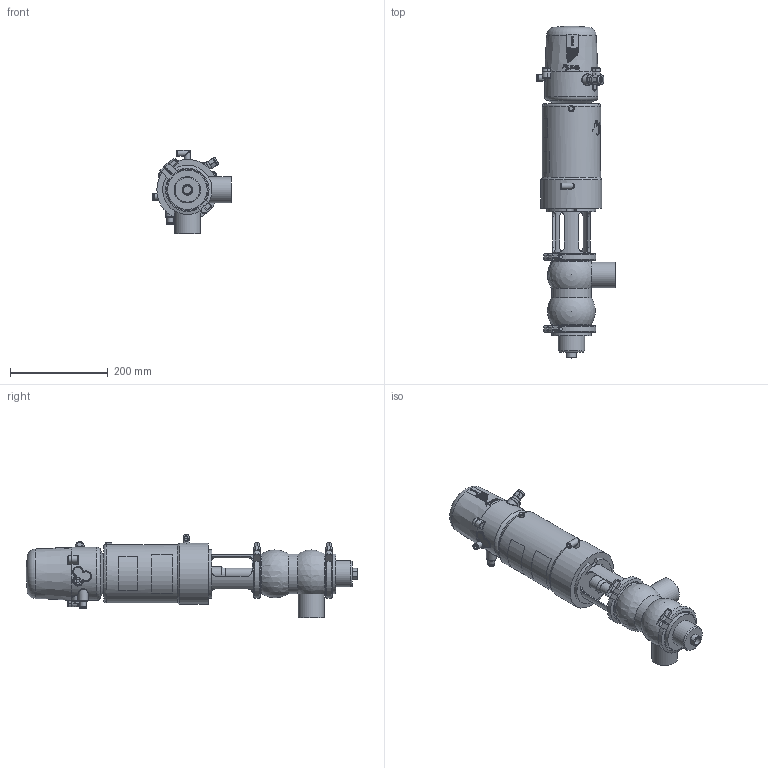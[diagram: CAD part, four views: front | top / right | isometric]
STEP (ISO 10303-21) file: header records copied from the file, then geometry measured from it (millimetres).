
FILE_DESCRIPTION (( 'STEP AP214' ), '1' );
FILE_NAME ('INNOVA S DB-90 W DIN 050 & C-TOP S_10.251.16.0018.STEP', '2024-08-19T10:13:26', ( '' ), ( '' ), 'SwSTEP 2.0', 'SolidWorks 2023', '' );
FILE_SCHEMA (( 'AUTOMOTIVE_DESIGN' ));
Length unit declared in the file: millimetre
Products named in the file (7): 10.240.15.0001_DN 050; 10.251.15.0001_DN 050; 10.251.15.0002_DN 050; 10.251.15.0010_DIN 050; INNOVA S DB-90 W DIN 050 & C-TOP S_10.251.16.0018; 10.426.15.0001_C-TOP S - 1 EV; 10.250.15.0002_Type S T1
Assembly tree (7 placements, depth 2):
  INNOVA S DB-90 W DIN 050 & C-TOP S_10.251.16.0018
    10.251.15.0001_DN 050
    10.250.15.0002_Type S T1
    10.426.15.0001_C-TOP S - 1 EV
    10.251.15.0010_DIN 050
    10.240.15.0001_DN 050  x2
    10.251.15.0002_DN 050
Bounding box: 161 x 680 x 171 mm (x, y, z)
Volume: 5234660.4 mm3; surface area: 386355.7 mm2
Topology: 7 solids, 7 shells, 1186 faces, 2865 edges, 1902 vertices
Faces by surface type: plane 413, cylinder 370, cone 202, bspline 160, torus 33, sphere 8
Full cylindrical faces by diameter (mm): 0.371 x17, 0.512 x16, 0.658 x16, 0.795 x16, 0.94 x15, 1.098 x15, 1.241 x13, 1.382 x13, 1.523 x11, 1.669 x10, 2.201 x1, 4.2 x2, 5 x1, 5.5 x2, 6 x3, 6.15 x1, 8 x5, 8.5 x1, 10 x1, 10.5 x2, 11 x2, 12.5 x6, 13 x2, 13.5 x2, 16 x1, 17 x3, 20 x2, 22 x2, 23 x1, 28 x1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
Entity records: 58222 total; most frequent: CARTESIAN_POINT 27458, ORIENTED_EDGE 4596, DIRECTION 3703, EDGE_CURVE 2298, VERTEX_POINT 1625, EDGE_LOOP 1577, AXIS2_PLACEMENT_3D 1509, FACE_OUTER_BOUND 1340
